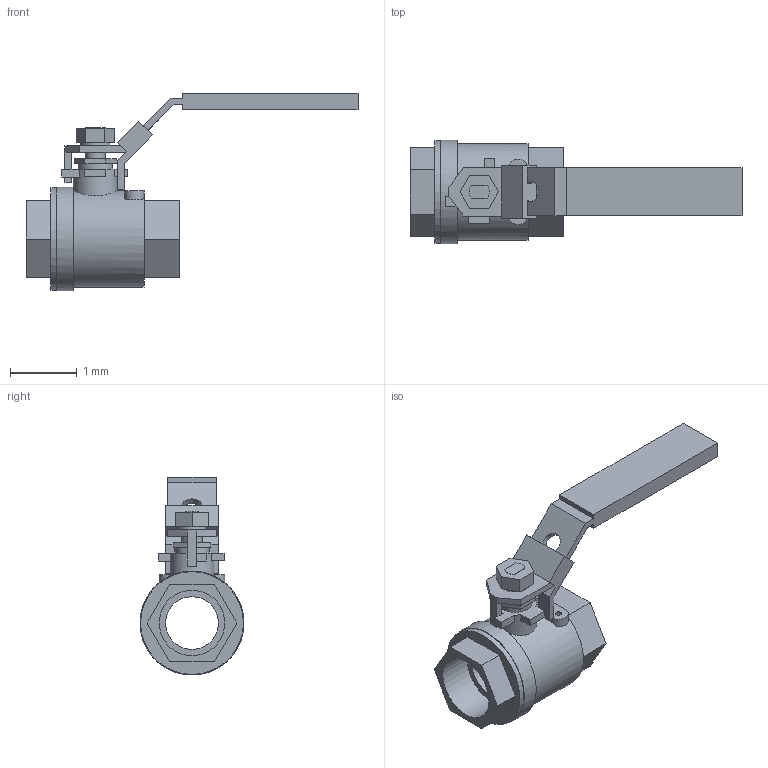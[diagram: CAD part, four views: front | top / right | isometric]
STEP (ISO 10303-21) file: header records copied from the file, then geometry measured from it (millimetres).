
FILE_DESCRIPTION(('Open CASCADE Model'),'2;1');
FILE_NAME('Open CASCADE Shape Model','2022-03-23T11:33:54',('Author'),( 'Open CASCADE'),'Open CASCADE STEP processor 7.3','Open CASCADE 7.3' ,'Unknown');
FILE_SCHEMA(('AUTOMOTIVE_DESIGN { 1 0 10303 214 1 1 1 1 }'));
Length unit declared in the file: millimetre
Products named in the file (1): Open CASCADE STEP translator 7.3 1
Bounding box: 4.98 x 1.56 x 2.97 mm (x, y, z)
Volume: 3 mm3; surface area: 31.8 mm2
Topology: 1 solids, 1 shells, 123 faces, 317 edges, 207 vertices
Faces by surface type: plane 106, cylinder 17
Full cylindrical faces by diameter (mm): 0.087 x2, 0.302 x1, 0.438 x1, 0.515 x1, 0.66 x1, 0.79 x1, 0.982 x2, 1.45 x1, 1.542 x1, 1.558 x1
Entity records: 8240 total; most frequent: CARTESIAN_POINT 1804, DIRECTION 1194, LINE 828, VECTOR 828, ORIENTED_EDGE 634, PCURVE 634, DEFINITIONAL_REPRESENTATION 634, EDGE_CURVE 317
